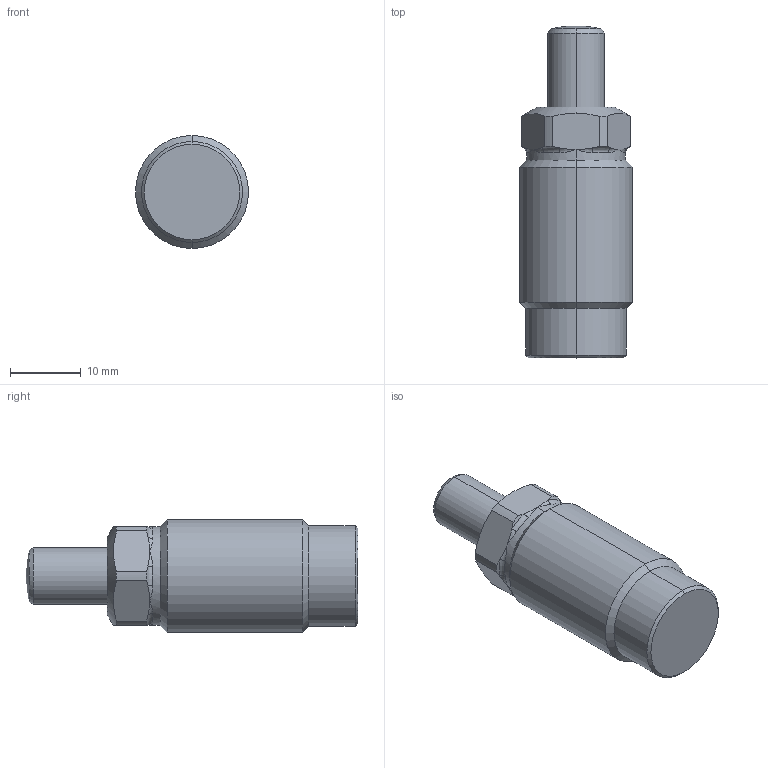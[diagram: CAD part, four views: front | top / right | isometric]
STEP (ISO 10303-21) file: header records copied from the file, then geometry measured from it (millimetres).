
FILE_DESCRIPTION((' '),'2;1');
FILE_NAME( 'CMC01-10R.x_t.stp', '2024-08-27T13:58:36', (' '), ('--- Datakit www.datakit.com---'), ' Datakit CrossCadWare V2024.1 Dec 21 2023', 'Mastercam 2025', ' ');
FILE_SCHEMA(('AUTOMOTIVE_DESIGN { 1 0 10303 214 1 1 1 1 }'));
Length unit declared in the file: millimetre
Products named in the file (1): CMC01-10R
Bounding box: 16 x 47 x 16 mm (x, y, z)
Volume: 6561.2 mm3; surface area: 2660.3 mm2
Topology: 2 solids, 2 shells, 62 faces, 155 edges, 84 vertices
Faces by surface type: cone 16, cylinder 16, bspline 12, plane 10, torus 6, sphere 2
Entity records: 3325 total; most frequent: CARTESIAN_POINT 1964, ORIENTED_EDGE 282, DIRECTION 264, EDGE_CURVE 141, AXIS2_PLACEMENT_3D 116, VERTEX_POINT 84, CIRCLE 65, EDGE_LOOP 63
